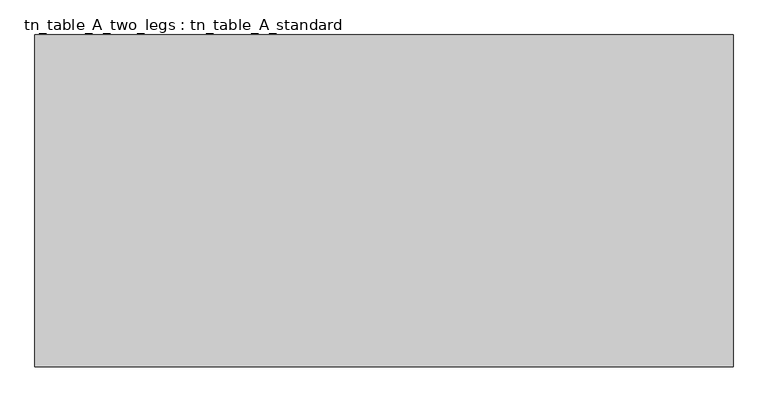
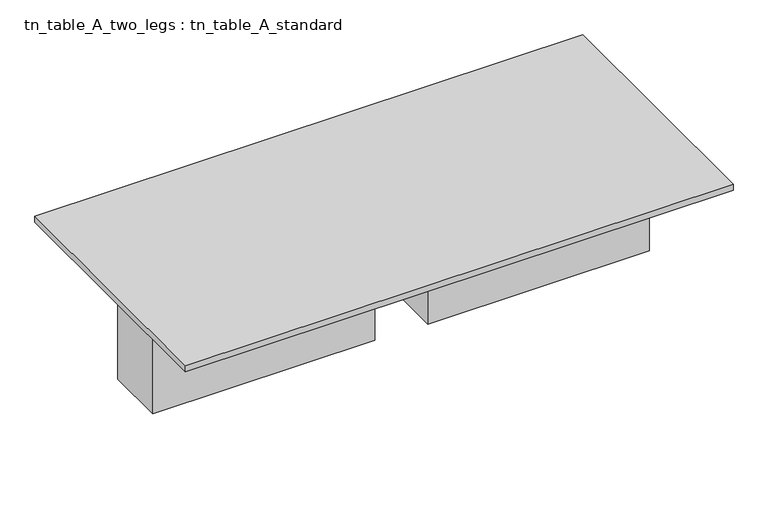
"""IFC4 building model written with IfcOpenShell, lengths in millimetres: furniture geometry, tn_table_A_two_legs : tn_table_A_standard."""

from ifc_helpers import new_model, si_unit, frame, origin, origin_with_axes, place, context, project, spatial, polyline, outline, extrude, source, transform, mapped, element, save


def tn_table_a_two_legs_tn_table_a_standard_4b226d7d(model_context):
    return source(origin(), model_context, "Body", "SweptSolid", [
        extrude(outline(polyline([(1604.6542374, 177.8), (1604.6542374, -177.8), (307.0271187, -177.8), (307.0271187, 177.8), (1604.6542374, 177.8)])), origin_with_axes(), (0.0, 0.0, 1.0), 673.1),
        extrude(outline(polyline([(2.2271187, 186.6425858), (2.2271187, -168.9574142), (-1295.4, -168.9574142), (-1295.4, 186.6425858), (2.2271187, 186.6425858)])), origin_with_axes(), (0.0, 0.0, 1.0), 673.1),
        extrude(outline(polyline([(1757.0542374, 762.0), (1757.0542374, -762.0), (-1447.8, -762.0), (-1447.8, 762.0), (1757.0542374, 762.0)])), frame((0.0, 0.0, 673.1), z_axis=(0.0, 0.0, 1.0), x_axis=(1.0, 0.0, 0.0)), (0.0, 0.0, 1.0), 38.1),
    ])


if __name__ == "__main__":
    model = new_model("IFC4")
    model_context = context("Model", 3, world=origin())
    ifc_project = project(units=[si_unit("LENGTHUNIT", "METRE", prefix="MILLI")], contexts=[model_context])
    site = spatial("IfcSite", under=ifc_project)
    building = spatial("IfcBuilding", under=site)
    placement = place(None, origin())
    tn_table_a_two_legs_tn_table_a_standard_shape = tn_table_a_two_legs_tn_table_a_standard_4b226d7d(model_context)
    element("IfcFurniture", 1, ObjectType="tn_table_A_two_legs : tn_table_A_standard", at=placement, inside=building, context=model_context, shape_type="MappedRepresentation", body=[
        mapped(tn_table_a_two_legs_tn_table_a_standard_shape, transform((0.0, 0.0, 0.0), x_axis=(1.0, 0.0, 0.0), y_axis=(0.0, 1.0, 0.0), z_axis=(0.0, 0.0, 1.0))),
    ])
    save(model, "model.ifc")
